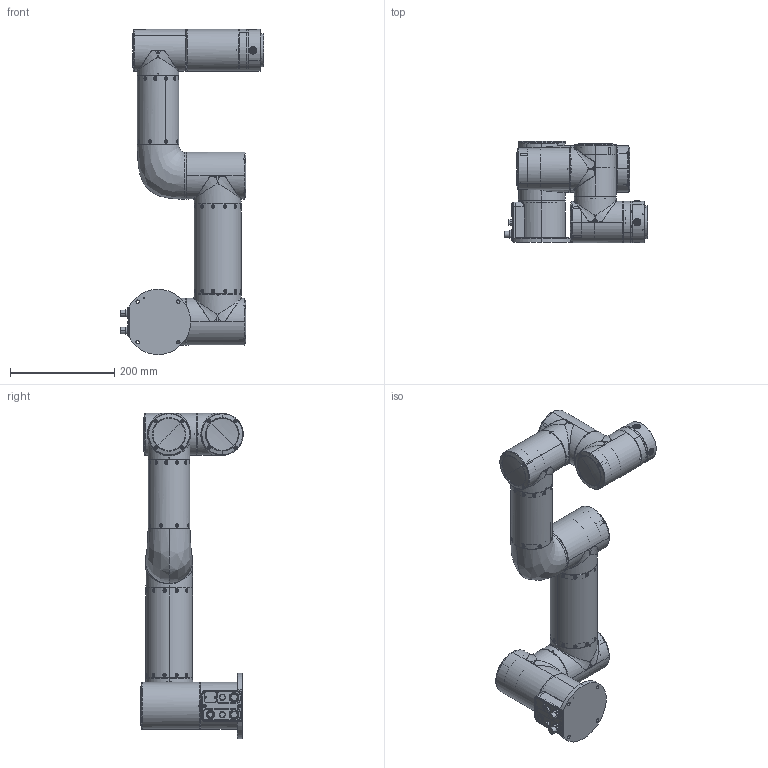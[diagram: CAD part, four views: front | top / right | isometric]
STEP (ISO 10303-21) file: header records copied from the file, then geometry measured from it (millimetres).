
FILE_DESCRIPTION (( 'STEP AP214' ), '1' );
FILE_NAME ('RD37-FR3C-V6.0.STEP', '2025-05-15T05:36:39', ( '' ), ( '' ), 'SwSTEP 2.0', 'SolidWorks 2018', '' );
FILE_SCHEMA (( 'AUTOMOTIVE_DESIGN' ));
Length unit declared in the file: millimetre
Products named in the file (7): RD37-FR3C-V6.0-2; RD37-FR3C-V6.0-1; RD37-FR3C-V6.0-7; RD37-FR3C-V6.0-3; RD37-FR3C-V6.0; RD37-FR3C-V6.0-5; RD37-FR3C-V6.0-4
Assembly tree (7 placements, depth 2):
  RD37-FR3C-V6.0
    RD37-FR3C-V6.0-1
    RD37-FR3C-V6.0-2
    RD37-FR3C-V6.0-3
    RD37-FR3C-V6.0-4
    RD37-FR3C-V6.0-5  x2
    RD37-FR3C-V6.0-7
Bounding box: 273.75 x 195.99 x 622.5 mm (x, y, z)
Volume: 7144663.6 mm3; surface area: 795485.1 mm2
Topology: 55 solids, 103 shells, 3630 faces, 8896 edges, 5600 vertices
Faces by surface type: plane 1609, cylinder 1084, cone 534, bspline 326, torus 55, sphere 22
Entity records: 155199 total; most frequent: CARTESIAN_POINT 75942, ORIENTED_EDGE 16518, DIRECTION 15953, EDGE_CURVE 8259, AXIS2_PLACEMENT_3D 6081, VERTEX_POINT 5261, VECTOR 3791, LINE 3791
